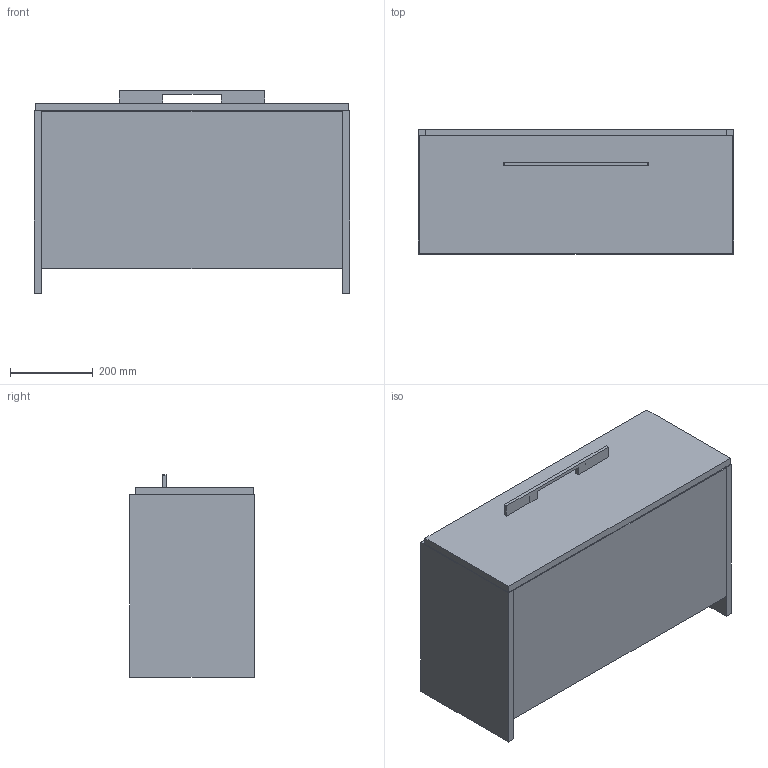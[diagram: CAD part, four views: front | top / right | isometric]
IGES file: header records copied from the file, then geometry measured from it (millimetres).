
Global section: file name: 80; native system: Autodesk Inventor 2024; preprocessor: unknown; author: pc19; date: 20250324.172109; units: millimetre
Bounding box: 760 x 300 x 488 mm (x, y, z)
Volume: 13923677.3 mm3; surface area: 1731691.7 mm2
Topology: 6 solids, 6 shells, 116 faces, 290 edges, 216 vertices
Faces by surface type: bspline 116
